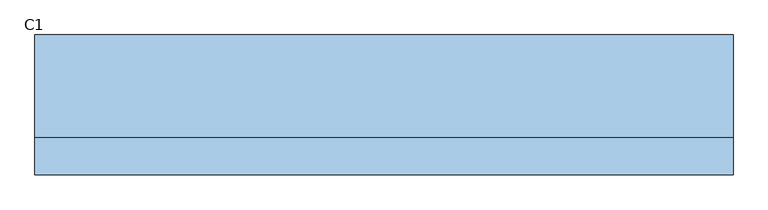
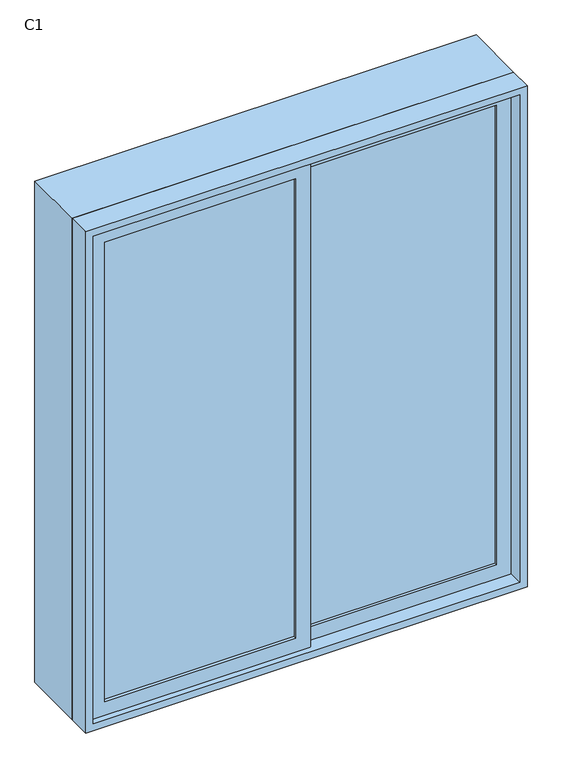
"""IFC4 building model written with IfcOpenShell, lengths in millimetres: window geometry, 推拉窗6 : C1."""

from ifc_helpers import new_model, si_unit, frame, origin, place, context, project, spatial, polyline, outline, extrude, source, transform, mapped, element, save


def c1_e04ce6eb(model_context):
    return source(origin(), model_context, "Body", "SweptSolid", [
        extrude(outline(polyline([(-665.475, -53.1265625), (-665.475, -43.1265625), (-15.475, -43.1265625), (-15.475, -53.1265625), (-665.475, -53.1265625)])), frame((0.0, 0.0, 975.0), z_axis=(0.0, 0.0, 1.0), x_axis=(1.0, 0.0, 0.0)), (0.0, 0.0, 1.0), 1650.0),
        extrude(outline(polyline([(34.525, -23.1265625), (34.525, -13.1265625), (684.525, -13.1265625), (684.525, -23.1265625), (34.525, -23.1265625)])), frame((0.0, 0.0, 975.0), z_axis=(0.0, 0.0, 1.0), x_axis=(1.0, 0.0, 0.0)), (0.0, 0.0, 1.0), 1650.0),
        extrude(outline(polyline([(2700.0, -740.475), (900.0, -740.475), (900.0, 759.525), (2700.0, 759.525), (2700.0, -740.475)]), holes=[polyline([(2645.0, 709.525), (955.0, 709.525), (955.0, -690.475), (2645.0, -690.475), (2645.0, 709.525)])]), frame((0.0, -3.1265625, 0.0), z_axis=(0.0, 1.0, 0.0), x_axis=(0.0, 0.0, 1.0)), (0.0, 0.0, 1.0), 220.0),
        extrude(outline(polyline([(925.0, 34.525), (2675.0, 34.525), (2675.0, -715.475), (925.0, -715.475), (925.0, 34.525)]), holes=[polyline([(975.0, -15.475), (975.0, -665.475), (2625.0, -665.475), (2625.0, -15.475), (975.0, -15.475)])]), frame((0.0, -63.1265625, 0.0), z_axis=(0.0, 1.0, 0.0), x_axis=(0.0, 0.0, 1.0)), (0.0, 0.0, 1.0), 30.0),
        extrude(outline(polyline([(2675.0, -15.475), (925.0, -15.475), (925.0, 734.525), (2675.0, 734.525), (2675.0, -15.475)]), holes=[polyline([(2625.0, 34.525), (2625.0, 684.525), (975.0, 684.525), (975.0, 34.525), (2625.0, 34.525)])]), frame((0.0, -33.1265625, 0.0), z_axis=(0.0, 1.0, 0.0), x_axis=(0.0, 0.0, 1.0)), (0.0, 0.0, 1.0), 30.0),
        extrude(outline(polyline([(2700.0, -740.475), (900.0, -740.475), (900.0, 759.525), (2700.0, 759.525), (2700.0, -740.475)]), holes=[polyline([(925.0, -715.475), (2675.0, -715.475), (2675.0, 734.525), (925.0, 734.525), (925.0, -715.475)])]), frame((0.0, -83.1265625, 0.0), z_axis=(0.0, 1.0, 0.0), x_axis=(0.0, 0.0, 1.0)), (0.0, 0.0, 1.0), 80.0),
    ])


if __name__ == "__main__":
    model = new_model("IFC4")
    model_context = context("Model", 3, world=origin())
    ifc_project = project(units=[si_unit("LENGTHUNIT", "METRE", prefix="MILLI")], contexts=[model_context])
    site = spatial("IfcSite", under=ifc_project)
    building = spatial("IfcBuilding", under=site)
    placement = place(None, origin())
    c1_shape = c1_e04ce6eb(model_context)
    element("IfcWindow", 1, ObjectType="推拉窗6 : C1", at=placement, inside=building, context=model_context, shape_type="MappedRepresentation", body=[
        mapped(c1_shape, transform((0.0, 0.0, 0.0), x_axis=(1.0, 0.0, 0.0), y_axis=(0.0, 1.0, 0.0), z_axis=(0.0, 0.0, 1.0))),
    ])
    save(model, "model.ifc")
